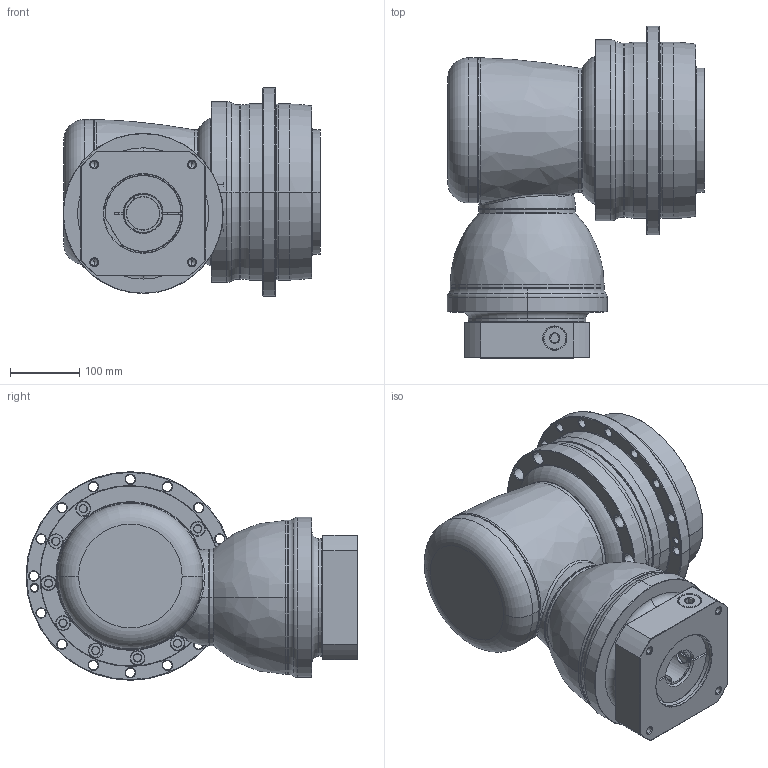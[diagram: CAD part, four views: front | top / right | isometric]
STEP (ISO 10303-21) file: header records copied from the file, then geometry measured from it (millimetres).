
FILE_DESCRIPTION((''),'2;1');
FILE_NAME('AHK255_2ST_48-P0409B00101_ASM','2016-10-17T',('d01943'),(''),'PRO/ENGINEER BY PARAMETRIC TECHNOLOGY CORPORATION, 2008410','PRO/ENGINEER BY PARAMETRIC TECHNOLOGY CORPORATION, 2008410','');
FILE_SCHEMA(('CONFIG_CONTROL_DESIGN'));
Length unit declared in the file: millimetre
Products named in the file (12): P1008600002; P1802700001; P0278700003; P0359700003; P1315600001; P1007600001; P1318600401; P0503B00016; P0912604201; P0409B00101; 21711426021; AHK255_2ST_48-P0409B00101_ASM
Assembly tree (11 placements, depth 2):
  AHK255_2ST_48-P0409B00101_ASM
    P1008600002
    P1802700001
    P0278700003
    P0359700003
    P1315600001
    P1007600001
    P1318600401
    P0503B00016
    P0912604201
    P0409B00101
    21711426021
Bounding box: 373.5 x 480.5 x 302 mm (x, y, z)
Volume: 16798067.7 mm3; surface area: 1387693.7 mm2
Topology: 12 solids, 12 shells, 932 faces, 2113 edges, 1232 vertices
Faces by surface type: cylinder 334, cone 300, plane 135, torus 126, bspline 35, sphere 2
Entity records: 32860 total; most frequent: CARTESIAN_POINT 11295, DIRECTION 4966, ORIENTED_EDGE 4134, AXIS2_PLACEMENT_3D 2130, EDGE_CURVE 2067, VERTEX_POINT 1232, CIRCLE 1210, EDGE_LOOP 1095
